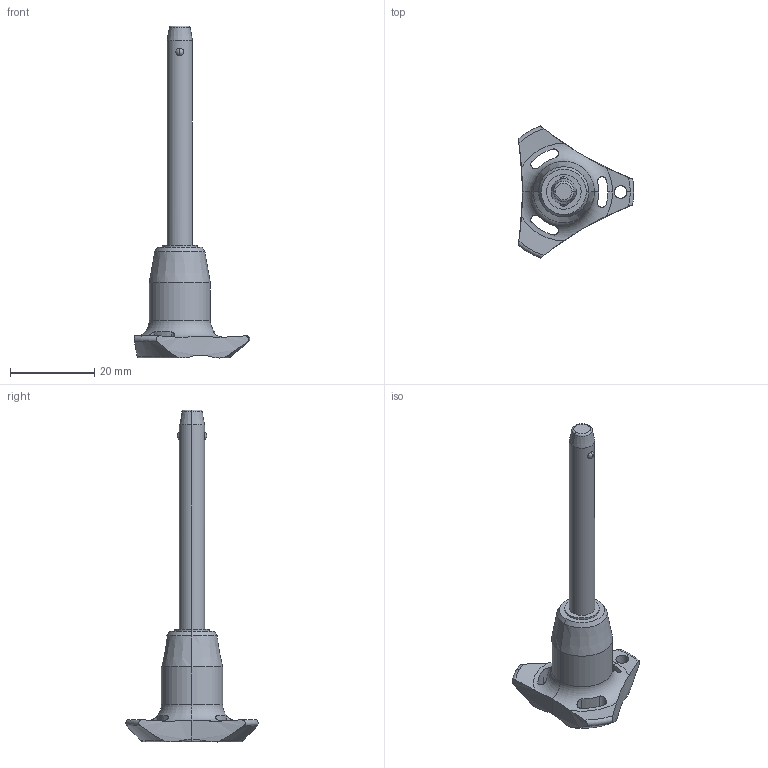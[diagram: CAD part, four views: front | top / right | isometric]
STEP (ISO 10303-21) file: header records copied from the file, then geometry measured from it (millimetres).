
FILE_DESCRIPTION (( 'STEP AP203' ), '1' );
FILE_NAME ('QR1704.M06-045-S.step', '2025-11-12T09:13:30', ( '' ), ( '' ), 'SwSTEP 2.0', 'SolidWorks 2019', '' );
FILE_SCHEMA (( 'CONFIG_CONTROL_DESIGN' ));
Length unit declared in the file: millimetre
Products named in the file (1): QR1704.M06-045-S
Bounding box: 27.4 x 31.31 x 78.7 mm (x, y, z)
Volume: 6238.4 mm3; surface area: 3401 mm2
Topology: 1 solids, 1 shells, 66 faces, 181 edges, 115 vertices
Faces by surface type: cylinder 30, cone 14, torus 12, sphere 6, plane 4
Entity records: 2709 total; most frequent: CARTESIAN_POINT 997, ORIENTED_EDGE 362, DIRECTION 332, EDGE_CURVE 181, AXIS2_PLACEMENT_3D 148, VERTEX_POINT 115, CIRCLE 81, EDGE_LOOP 72
